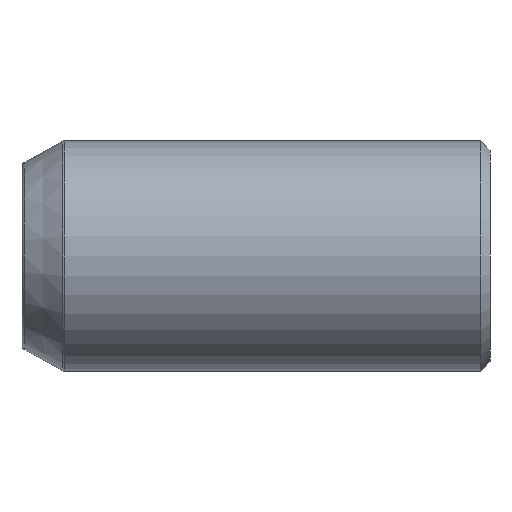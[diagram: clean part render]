
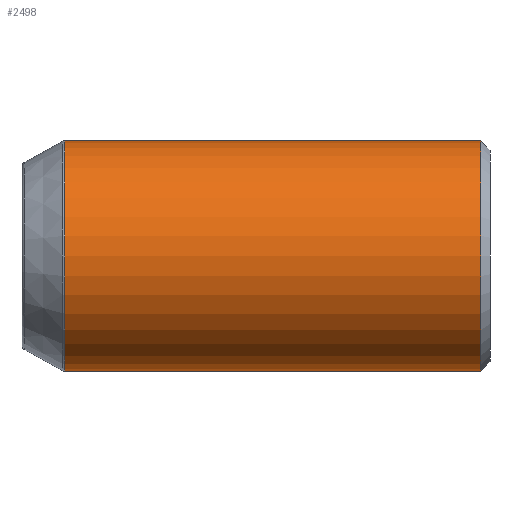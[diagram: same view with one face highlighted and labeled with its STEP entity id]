
A CAD part, left-side view. The second image highlights one B-rep face of the part: STEP entity #2498.
In plain terms, the highlighted cylindrical face has radius 12.5 mm (diameter 25 mm), a partial arc.
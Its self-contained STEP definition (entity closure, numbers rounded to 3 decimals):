
#615 = CARTESIAN_POINT ( 'NONE',  ( -6.15, -6.112, 0. ) ) ;
#628 = DIRECTION ( 'NONE',  ( 0., 0., 1. ) ) ;
#655 = DIRECTION ( 'NONE',  ( 0., 1., 0. ) ) ;
#684 = CARTESIAN_POINT ( 'NONE',  ( -6.15, 43.688, 12.5 ) ) ;
#687 = DIRECTION ( 'NONE',  ( 0., -1., 0. ) ) ;
#972 = CARTESIAN_POINT ( 'NONE',  ( -6.15, 39.058, 0. ) ) ;
#973 = DIRECTION ( 'NONE',  ( 0., -1., 0. ) ) ;
#983 = DIRECTION ( 'NONE',  ( 0., 0., 1. ) ) ;
#1242 = EDGE_LOOP ( 'NONE', ( #7381, #7355, #7327, #7373 ) ) ;
#1536 = LINE ( 'NONE', #8968, #1545 ) ;
#1545 = VECTOR ( 'NONE', #8936, 1000. ) ;
#2085 = EDGE_CURVE ( 'NONE', #5360, #5291, #1536, .T. ) ;
#2127 = EDGE_CURVE ( 'NONE', #5291, #5295, #3153, .T. ) ;
#2138 = EDGE_CURVE ( 'NONE', #5356, #5295, #3207, .T. ) ;
#2206 = EDGE_CURVE ( 'NONE', #5356, #5360, #2656, .T. ) ;
#2498 = ADVANCED_FACE ( 'NONE', ( #3030 ), #3024, .T. ) ;
#2656 = CIRCLE ( 'NONE', #6535, 12.5 ) ;
#3024 = CYLINDRICAL_SURFACE ( 'NONE', #6722, 12.5 ) ;
#3030 = FACE_OUTER_BOUND ( 'NONE', #1242, .T. ) ;
#3153 = CIRCLE ( 'NONE', #6497, 12.5 ) ;
#3207 = LINE ( 'NONE', #684, #3209 ) ;
#3209 = VECTOR ( 'NONE', #687, 1000. ) ;
#3225 = DIRECTION ( 'NONE',  ( 0., 0., -1. ) ) ;
#3230 = CARTESIAN_POINT ( 'NONE',  ( -6.15, 43.688, 0. ) ) ;
#3237 = DIRECTION ( 'NONE',  ( 0., -1., 0. ) ) ;
#5291 = VERTEX_POINT ( 'NONE', #7851 ) ;
#5295 = VERTEX_POINT ( 'NONE', #7900 ) ;
#5356 = VERTEX_POINT ( 'NONE', #7958 ) ;
#5360 = VERTEX_POINT ( 'NONE', #7956 ) ;
#6497 = AXIS2_PLACEMENT_3D ( 'NONE', #615, #655, #628 ) ;
#6535 = AXIS2_PLACEMENT_3D ( 'NONE', #972, #973, #983 ) ;
#6722 = AXIS2_PLACEMENT_3D ( 'NONE', #3230, #3237, #3225 ) ;
#7327 = ORIENTED_EDGE ( 'NONE', *, *, #2085, .T. ) ;
#7355 = ORIENTED_EDGE ( 'NONE', *, *, #2206, .T. ) ;
#7373 = ORIENTED_EDGE ( 'NONE', *, *, #2127, .T. ) ;
#7381 = ORIENTED_EDGE ( 'NONE', *, *, #2138, .F. ) ;
#7851 = CARTESIAN_POINT ( 'NONE',  ( -6.15, -6.112, -12.5 ) ) ;
#7900 = CARTESIAN_POINT ( 'NONE',  ( -6.15, -6.112, 12.5 ) ) ;
#7956 = CARTESIAN_POINT ( 'NONE',  ( -6.15, 39.058, -12.5 ) ) ;
#7958 = CARTESIAN_POINT ( 'NONE',  ( -6.15, 39.058, 12.5 ) ) ;
#8936 = DIRECTION ( 'NONE',  ( 0., -1., 0. ) ) ;
#8968 = CARTESIAN_POINT ( 'NONE',  ( -6.15, 43.688, -12.5 ) ) ;
